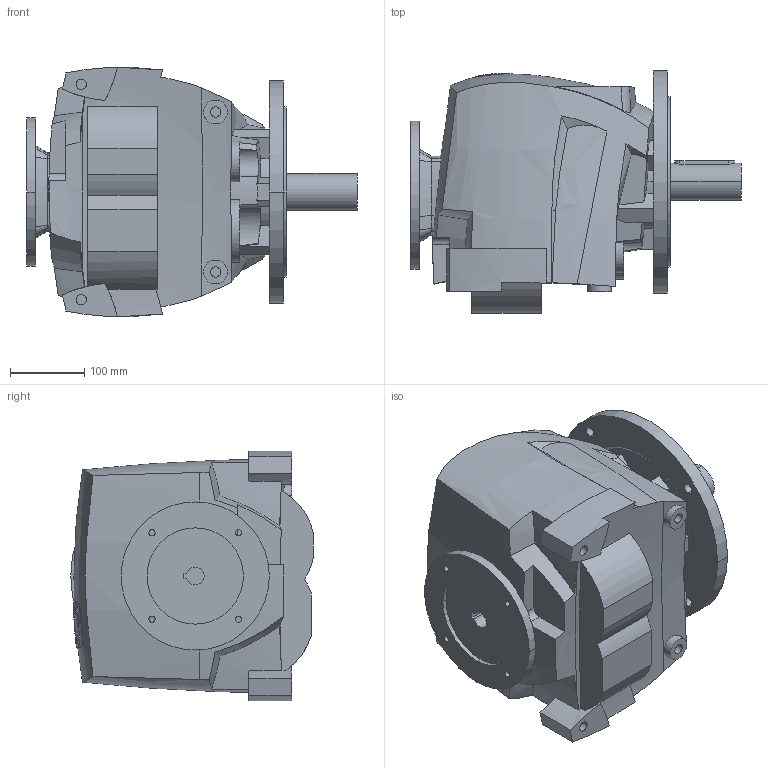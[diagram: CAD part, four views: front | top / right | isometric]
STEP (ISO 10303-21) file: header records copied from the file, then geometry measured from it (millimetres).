
FILE_DESCRIPTION((''),'2;1');
FILE_NAME('R50_300_PAM90','2013-12-19T',('Luca'),(''),'PRO/ENGINEER BY PARAMETRIC TECHNOLOGY CORPORATION, 2008230','PRO/ENGINEER BY PARAMETRIC TECHNOLOGY CORPORATION, 2008230','');
FILE_SCHEMA(('CONFIG_CONTROL_DESIGN'));
Length unit declared in the file: millimetre
Products named in the file (1): R50_300_PAM90
Bounding box: 446.5 x 327.31 x 336.73 mm (x, y, z)
Volume: 22427003 mm3; surface area: 700160.1 mm2
Topology: 1 solids, 7 shells, 418 faces, 1102 edges, 733 vertices
Faces by surface type: plane 169, cylinder 138, bspline 86, cone 13, torus 7, extrusion 5
Entity records: 17672 total; most frequent: CARTESIAN_POINT 7897, ORIENTED_EDGE 2200, DIRECTION 1707, EDGE_CURVE 1100, VERTEX_POINT 733, AXIS2_PLACEMENT_3D 600, VECTOR 507, LINE 502
